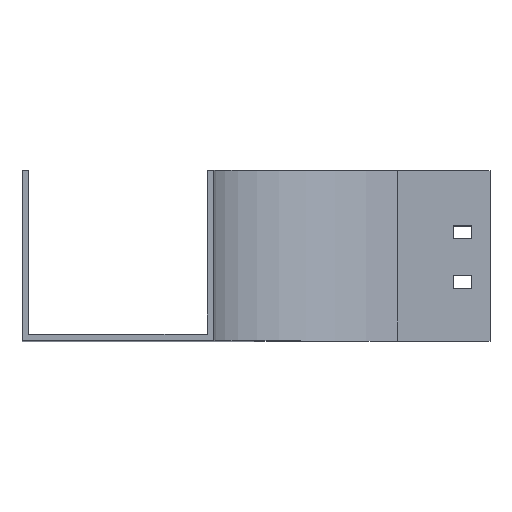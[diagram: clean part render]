
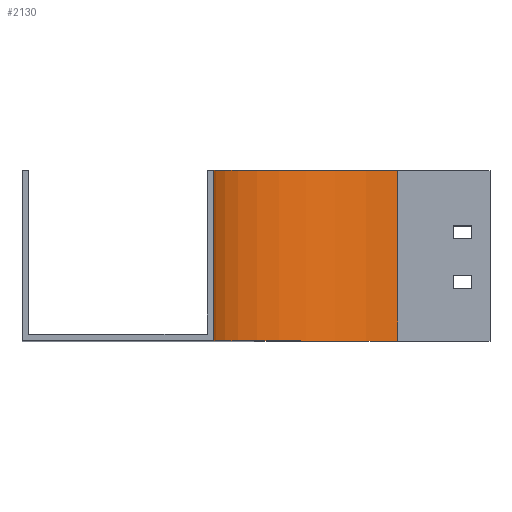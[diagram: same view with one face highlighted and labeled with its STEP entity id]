
A CAD part, top view. The second image highlights one B-rep face of the part: STEP entity #2130.
In plain terms, the highlighted cylindrical face has radius 100 mm (diameter 200 mm), a partial arc.
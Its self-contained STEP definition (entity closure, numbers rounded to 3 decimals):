
#45 = CYLINDRICAL_SURFACE ( 'NONE', #2349, 100. ) ;
#51 = DIRECTION ( 'NONE',  ( 0., -1., 0. ) ) ;
#80 = VERTEX_POINT ( 'NONE', #1908 ) ;
#118 = EDGE_CURVE ( 'NONE', #1157, #2114, #1891, .T. ) ;
#222 = FACE_OUTER_BOUND ( 'NONE', #1761, .T. ) ;
#241 = DIRECTION ( 'NONE',  ( 0., -1., 0. ) ) ;
#290 = ORIENTED_EDGE ( 'NONE', *, *, #2712, .T. ) ;
#395 = DIRECTION ( 'NONE',  ( 0., -1., 0. ) ) ;
#459 = DIRECTION ( 'NONE',  ( 0., 0., -1. ) ) ;
#604 = LINE ( 'NONE', #2105, #1299 ) ;
#680 = DIRECTION ( 'NONE',  ( 0., -1., 0. ) ) ;
#878 = CARTESIAN_POINT ( 'NONE',  ( 0., 92.5, 0. ) ) ;
#897 = ORIENTED_EDGE ( 'NONE', *, *, #118, .F. ) ;
#1135 = CARTESIAN_POINT ( 'NONE',  ( -100., 92.5, 0. ) ) ;
#1157 = VERTEX_POINT ( 'NONE', #1637 ) ;
#1158 = DIRECTION ( 'NONE',  ( 0., 0., -1. ) ) ;
#1299 = VECTOR ( 'NONE', #395, 1000. ) ;
#1564 = CARTESIAN_POINT ( 'NONE',  ( 0., 0., 0. ) ) ;
#1606 = VECTOR ( 'NONE', #2381, 1000. ) ;
#1637 = CARTESIAN_POINT ( 'NONE',  ( -100., 92.5, 0. ) ) ;
#1657 = EDGE_CURVE ( 'NONE', #1157, #2508, #2606, .T. ) ;
#1761 = EDGE_LOOP ( 'NONE', ( #290, #2759, #897, #2626 ) ) ;
#1891 = CIRCLE ( 'NONE', #2473, 100. ) ;
#1908 = CARTESIAN_POINT ( 'NONE',  ( 0., 0., -100. ) ) ;
#1967 = CARTESIAN_POINT ( 'NONE',  ( 0., 92.5, -100. ) ) ;
#2105 = CARTESIAN_POINT ( 'NONE',  ( 0., 92.5, -100. ) ) ;
#2114 = VERTEX_POINT ( 'NONE', #1967 ) ;
#2130 = ADVANCED_FACE ( 'NONE', ( #222 ), #45, .F. ) ;
#2155 = CARTESIAN_POINT ( 'NONE',  ( 0., 92.5, 0. ) ) ;
#2207 = AXIS2_PLACEMENT_3D ( 'NONE', #1564, #51, #1158 ) ;
#2314 = DIRECTION ( 'NONE',  ( 0., 0., -1. ) ) ;
#2349 = AXIS2_PLACEMENT_3D ( 'NONE', #878, #680, #459 ) ;
#2381 = DIRECTION ( 'NONE',  ( 0., -1., 0. ) ) ;
#2473 = AXIS2_PLACEMENT_3D ( 'NONE', #2155, #241, #2314 ) ;
#2508 = VERTEX_POINT ( 'NONE', #2654 ) ;
#2516 = CIRCLE ( 'NONE', #2207, 100. ) ;
#2606 = LINE ( 'NONE', #1135, #1606 ) ;
#2626 = ORIENTED_EDGE ( 'NONE', *, *, #1657, .T. ) ;
#2650 = EDGE_CURVE ( 'NONE', #2114, #80, #604, .T. ) ;
#2654 = CARTESIAN_POINT ( 'NONE',  ( -100., 0., 0. ) ) ;
#2712 = EDGE_CURVE ( 'NONE', #2508, #80, #2516, .T. ) ;
#2759 = ORIENTED_EDGE ( 'NONE', *, *, #2650, .F. ) ;
